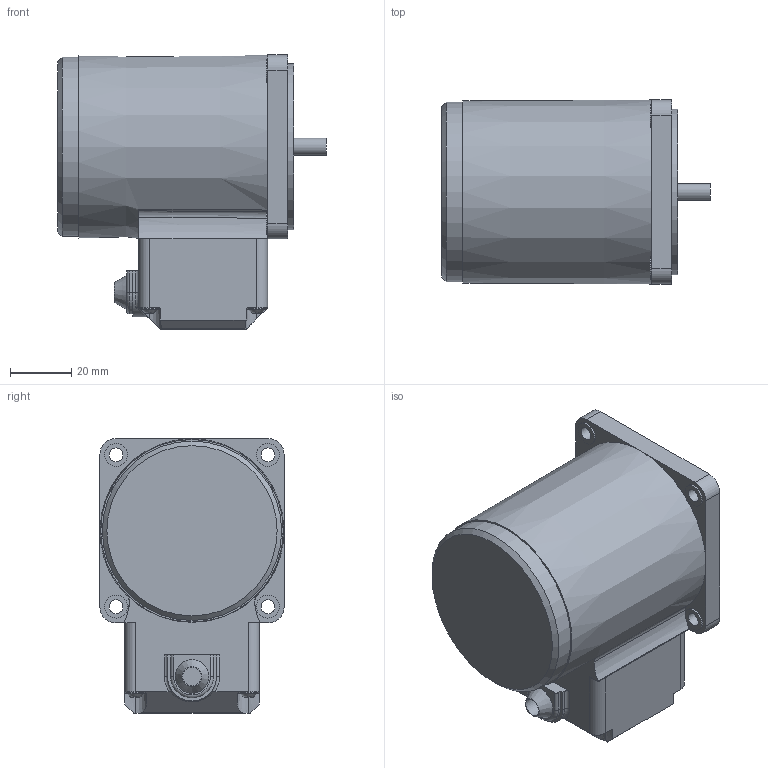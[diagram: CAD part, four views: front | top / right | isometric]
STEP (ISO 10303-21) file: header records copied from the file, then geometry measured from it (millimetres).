
FILE_DESCRIPTION((''),'2;1');
FILE_NAME('D:\STP파일\6W MOTOR\T BOX TYPE\S6(I,R)06G-T.stp','2013-05-20T15:54:31',('leebh'),(''),'Autodesk Inventor 2011','Autodesk Inventor 2011','');
FILE_SCHEMA(('AUTOMOTIVE_DESIGN { 1 0 10303 214 1 1 1 1 }'));
Length unit declared in the file: millimetre
Products named in the file (1): 부품2
Bounding box: 87.7 x 60 x 89.5 mm (x, y, z)
Volume: 250668.4 mm3; surface area: 37077.3 mm2
Topology: 1 solids, 5 shells, 274 faces, 711 edges, 461 vertices
Faces by surface type: plane 132, cylinder 88, bspline 28, torus 15, cone 11
Full cylindrical faces by diameter (mm): 3 x4, 3.5 x4, 3.8 x4, 4.5 x4, 5.6 x5, 7.5 x4, 8 x1, 25 x1, 54 x1, 58.5 x1
Entity records: 9264 total; most frequent: CARTESIAN_POINT 2599, ORIENTED_EDGE 1306, DIRECTION 1289, EDGE_CURVE 653, AXIS2_PLACEMENT_3D 490, VERTEX_POINT 451, EDGE_LOOP 358, VECTOR 309
